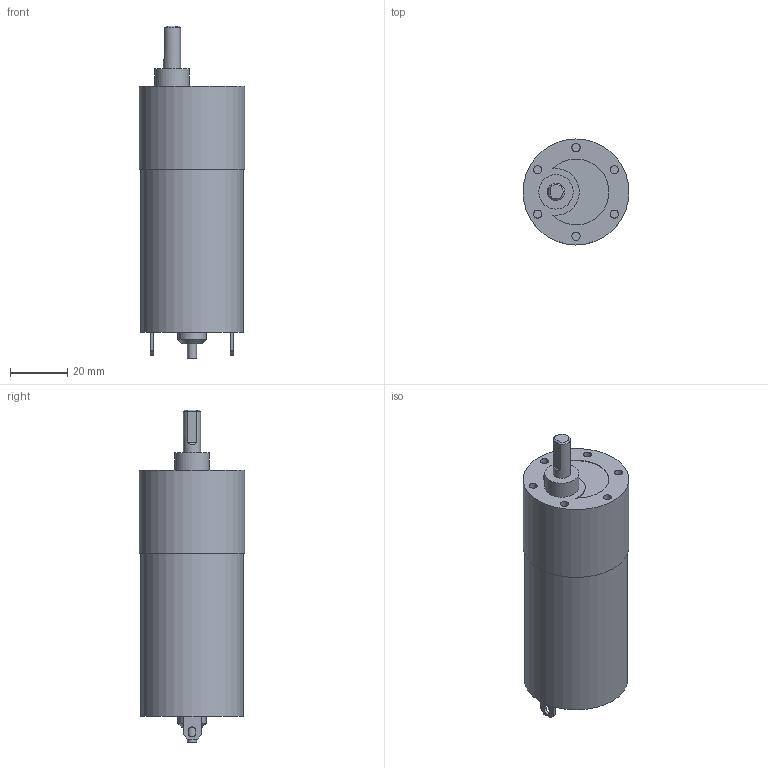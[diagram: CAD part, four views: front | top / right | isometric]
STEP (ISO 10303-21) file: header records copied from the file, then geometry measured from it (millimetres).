
FILE_DESCRIPTION(/* description */ ('Alibre Inc.'),/* implementation_level */ '2;1');
FILE_NAME(/* name */ 'export0',/* time_stamp */ '2013-08-07T10:49:08-06:00',/* author */ (''),/* organization */ (''),/* preprocessor_version */ 'ST-DEVELOPER v14',/* originating_system */ 'Alibre',/* authorisation */ '');
FILE_SCHEMA (('ALIBRE_SCHEMA','CONFIG_CONTROL_DESIGN'));
Length unit declared in the file: centimetre
Products named in the file (1): ID_1
Bounding box: 37 x 37 x 116 mm (x, y, z)
Volume: 90503.2 mm3; surface area: 13037.5 mm2
Topology: 1 solids, 1 shells, 55 faces, 114 edges, 75 vertices
Faces by surface type: plane 35, cylinder 18, cone 2
Full cylindrical faces by diameter (mm): 2.85 x6, 3.18 x1, 6 x1, 10 x1, 12 x1, 36 x1, 37 x1
Entity records: 2923 total; most frequent: CARTESIAN_POINT 402, DIRECTION 251, ORIENTED_EDGE 200, PERSISTANTTOPOLOGYATTRIBUTE 141, AXIS2_PLACEMENT_3D 113, EDGE_CURVE 100, REFERENCEDEPENDENTUV 93, VECTOR 91
